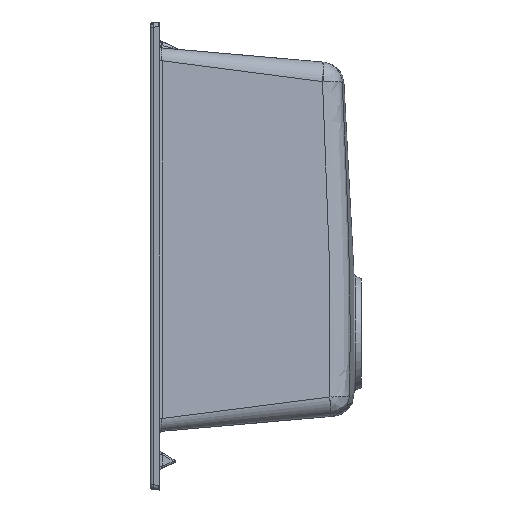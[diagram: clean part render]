
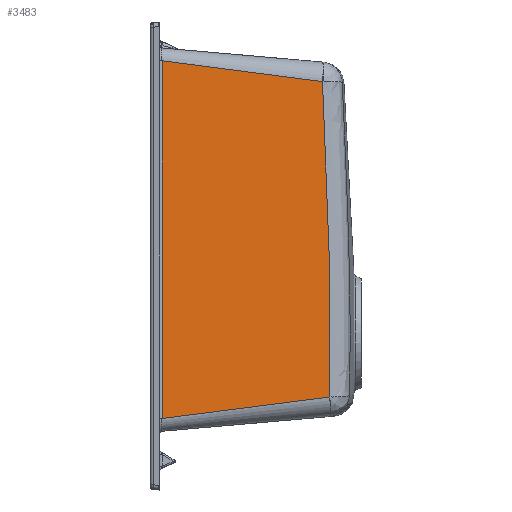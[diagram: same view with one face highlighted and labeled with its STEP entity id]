
A CAD part, left-side view. The second image highlights one B-rep face of the part: STEP entity #3483.
In plain terms, the highlighted planar face has unit normal (-0.996, -0.087, 0).
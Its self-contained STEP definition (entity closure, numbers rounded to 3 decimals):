
#81 = CARTESIAN_POINT ( 'NONE',  ( -351.547, -181.394, -150.627 ) ) ;
#604 = CARTESIAN_POINT ( 'NONE',  ( -351.517, -181.733, -136.581 ) ) ;
#616 = EDGE_CURVE ( 'NONE', #2795, #10070, #10527, .T. ) ;
#684 = CARTESIAN_POINT ( 'NONE',  ( -351.701, -179.63, 45.966 ) ) ;
#851 = ORIENTED_EDGE ( 'NONE', *, *, #3961, .F. ) ;
#860 = ORIENTED_EDGE ( 'NONE', *, *, #12334, .F. ) ;
#1314 = DIRECTION ( 'NONE',  ( 0.087, -0.996, 0. ) ) ;
#2795 = VERTEX_POINT ( 'NONE', #10361 ) ;
#3462 = CARTESIAN_POINT ( 'NONE',  ( -351.548, -181.377, -150.628 ) ) ;
#3483 = ADVANCED_FACE ( 'NONE', ( #7760 ), #13717, .T. ) ;
#3589 = ORIENTED_EDGE ( 'NONE', *, *, #616, .T. ) ;
#3593 = CARTESIAN_POINT ( 'NONE',  ( -351.55, -181.36, -150.63 ) ) ;
#3756 = CARTESIAN_POINT ( 'NONE',  ( -351.55, -181.36, -150.63 ) ) ;
#3961 = EDGE_CURVE ( 'NONE', #8186, #13532, #7800, .T. ) ;
#4013 = CARTESIAN_POINT ( 'NONE',  ( -352.221, -173.692, 186.301 ) ) ;
#4195 = CARTESIAN_POINT ( 'NONE',  ( -351.485, -182.103, -52.322 ) ) ;
#4464 = CARTESIAN_POINT ( 'NONE',  ( -356.792, -121.445, -155.872 ) ) ;
#4921 = CARTESIAN_POINT ( 'NONE',  ( -351.546, -181.41, -150.625 ) ) ;
#5410 = CARTESIAN_POINT ( 'NONE',  ( -367.221, -2.239, -173.546 ) ) ;
#5847 = CARTESIAN_POINT ( 'NONE',  ( -362.231, -59.276, 199.808 ) ) ;
#6342 = CARTESIAN_POINT ( 'NONE',  ( -362.007, -61.833, -164.603 ) ) ;
#7361 = DIRECTION ( 'NONE',  ( 0., 0., -1. ) ) ;
#7516 = CARTESIAN_POINT ( 'NONE',  ( -352.221, -173.692, 186.301 ) ) ;
#7517 = CARTESIAN_POINT ( 'NONE',  ( -352.221, -173.692, 186.301 ) ) ;
#7760 = FACE_OUTER_BOUND ( 'NONE', #12208, .T. ) ;
#7800 = B_SPLINE_CURVE_WITH_KNOTS ( 'NONE', 3,
 ( #19362, #81, #3462, #3756 ),
 .UNSPECIFIED., .F., .F.,
 ( 4, 4 ),
 ( 0., 0. ),
 .UNSPECIFIED. ) ;
#8180 = CARTESIAN_POINT ( 'NONE',  ( -368.231, 9.303, 215.261 ) ) ;
#8186 = VERTEX_POINT ( 'NONE', #4921 ) ;
#8395 = VERTEX_POINT ( 'NONE', #4013 ) ;
#9196 = CARTESIAN_POINT ( 'NONE',  ( -351.584, -180.974, 3.848 ) ) ;
#9353 = CARTESIAN_POINT ( 'NONE',  ( -367.221, -2.239, 208.516 ) ) ;
#9506 = CARTESIAN_POINT ( 'NONE',  ( -351.659, -180.117, 31.928 ) ) ;
#9922 = DIRECTION ( 'NONE',  ( -0.996, -0.087, 0. ) ) ;
#10070 = VERTEX_POINT ( 'NONE', #5410 ) ;
#10361 = CARTESIAN_POINT ( 'NONE',  ( -367.221, -2.239, 208.516 ) ) ;
#10527 = LINE ( 'NONE', #16021, #12965 ) ;
#11270 = CARTESIAN_POINT ( 'NONE',  ( -351.47, -182.271, -80.407 ) ) ;
#11797 = B_SPLINE_CURVE_WITH_KNOTS ( 'NONE', 3,
 ( #9353, #5847, #18007, #7516 ),
 .UNSPECIFIED., .F., .F.,
 ( 4, 4 ),
 ( -0.135, 0.038 ),
 .UNSPECIFIED. ) ;
#12208 = EDGE_LOOP ( 'NONE', ( #15253, #3589, #860, #851, #17204 ) ) ;
#12334 = EDGE_CURVE ( 'NONE', #13532, #10070, #18762, .T. ) ;
#12686 = CARTESIAN_POINT ( 'NONE',  ( -351.546, -181.41, -150.625 ) ) ;
#12965 = VECTOR ( 'NONE', #7361, 1000. ) ;
#13068 = EDGE_CURVE ( 'NONE', #2795, #8395, #11797, .T. ) ;
#13532 = VERTEX_POINT ( 'NONE', #3593 ) ;
#13717 = PLANE ( 'NONE',  #20171 ) ;
#14531 = CARTESIAN_POINT ( 'NONE',  ( -351.996, -176.261, 130.175 ) ) ;
#14925 = B_SPLINE_CURVE_WITH_KNOTS ( 'NONE', 3,
 ( #7517, #16110, #14531, #19601, #21426, #684, #9506, #9196, #17846, #16412, #4195, #11270, #21350, #18071, #604, #12686 ),
 .UNSPECIFIED., .F., .F.,
 ( 4, 2, 2, 2, 2, 2, 2, 4 ),
 ( 0., 0.084, 0.126, 0.169, 0.211, 0.253, 0.295, 0.337 ),
 .UNSPECIFIED. ) ;
#15253 = ORIENTED_EDGE ( 'NONE', *, *, #13068, .F. ) ;
#16021 = CARTESIAN_POINT ( 'NONE',  ( -367.221, -2.239, -173.958 ) ) ;
#16110 = CARTESIAN_POINT ( 'NONE',  ( -352.107, -174.996, 158.238 ) ) ;
#16115 = EDGE_CURVE ( 'NONE', #8395, #8186, #14925, .T. ) ;
#16412 = CARTESIAN_POINT ( 'NONE',  ( -351.502, -181.909, -38.279 ) ) ;
#17204 = ORIENTED_EDGE ( 'NONE', *, *, #16115, .F. ) ;
#17846 = CARTESIAN_POINT ( 'NONE',  ( -351.551, -181.344, -10.195 ) ) ;
#18007 = CARTESIAN_POINT ( 'NONE',  ( -357.239, -116.333, 191.319 ) ) ;
#18071 = CARTESIAN_POINT ( 'NONE',  ( -351.496, -181.974, -122.537 ) ) ;
#18762 = B_SPLINE_CURVE_WITH_KNOTS ( 'NONE', 3,
 ( #21071, #4464, #6342, #21837 ),
 .UNSPECIFIED., .F., .F.,
 ( 4, 4 ),
 ( -0.163, 0.018 ),
 .UNSPECIFIED. ) ;
#19362 = CARTESIAN_POINT ( 'NONE',  ( -351.546, -181.41, -150.625 ) ) ;
#19601 = CARTESIAN_POINT ( 'NONE',  ( -351.842, -178.018, 88.073 ) ) ;
#20171 = AXIS2_PLACEMENT_3D ( 'NONE', #8180, #9922, #1314 ) ;
#21071 = CARTESIAN_POINT ( 'NONE',  ( -351.55, -181.36, -150.63 ) ) ;
#21350 = CARTESIAN_POINT ( 'NONE',  ( -351.473, -182.243, -94.45 ) ) ;
#21426 = CARTESIAN_POINT ( 'NONE',  ( -351.793, -178.581, 74.038 ) ) ;
#21837 = CARTESIAN_POINT ( 'NONE',  ( -367.221, -2.239, -173.546 ) ) ;
